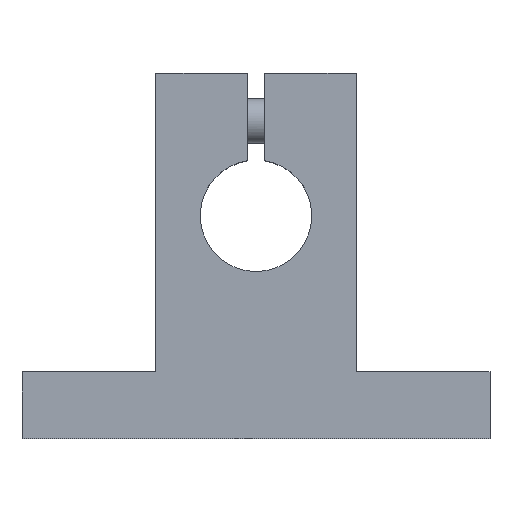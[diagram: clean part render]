
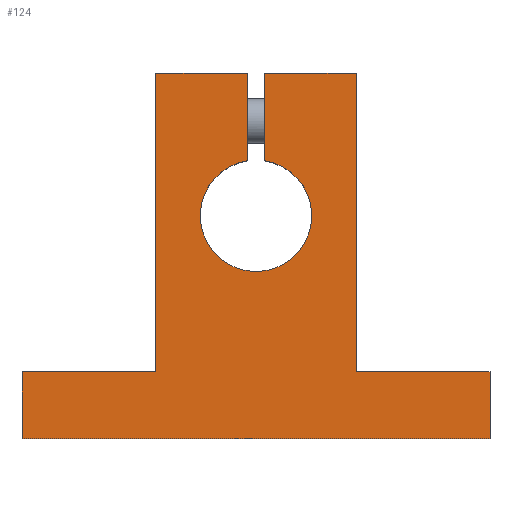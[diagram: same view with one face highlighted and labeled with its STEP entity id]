
A CAD part, top view. The second image highlights one B-rep face of the part: STEP entity #124.
In plain terms, the highlighted planar face has unit normal (0, 0, 1).
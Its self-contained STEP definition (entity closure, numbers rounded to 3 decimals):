
#124=ADVANCED_FACE('',(#161),#162,.F.);
#161=FACE_OUTER_BOUND('',#249,.T.);
#162=PLANE('',#250);
#249=EDGE_LOOP('',(#342,#343,#344,#345,#346,#347,#348,#349,#350,#351,#352,#353));
#250=AXIS2_PLACEMENT_3D('',#354,#355,#356);
#342=ORIENTED_EDGE('',*,*,#581,.T.);
#343=ORIENTED_EDGE('',*,*,#582,.T.);
#344=ORIENTED_EDGE('',*,*,#583,.T.);
#345=ORIENTED_EDGE('',*,*,#584,.T.);
#346=ORIENTED_EDGE('',*,*,#585,.T.);
#347=ORIENTED_EDGE('',*,*,#586,.T.);
#348=ORIENTED_EDGE('',*,*,#587,.T.);
#349=ORIENTED_EDGE('',*,*,#588,.T.);
#350=ORIENTED_EDGE('',*,*,#589,.T.);
#351=ORIENTED_EDGE('',*,*,#590,.T.);
#352=ORIENTED_EDGE('',*,*,#591,.T.);
#353=ORIENTED_EDGE('',*,*,#579,.T.);
#354=CARTESIAN_POINT('',(0.0,20.0,14.0));
#355=DIRECTION('',(0.0,0.0,-1.0));
#356=DIRECTION('',(1.0,0.,0.0));
#579=EDGE_CURVE('',#653,#651,#654,.T.);
#581=EDGE_CURVE('',#651,#656,#657,.T.);
#582=EDGE_CURVE('',#656,#658,#659,.T.);
#583=EDGE_CURVE('',#658,#660,#661,.T.);
#584=EDGE_CURVE('',#660,#662,#663,.T.);
#585=EDGE_CURVE('',#662,#664,#665,.T.);
#586=EDGE_CURVE('',#664,#666,#667,.T.);
#587=EDGE_CURVE('',#666,#668,#669,.T.);
#588=EDGE_CURVE('',#668,#670,#671,.T.);
#589=EDGE_CURVE('',#670,#672,#673,.T.);
#590=EDGE_CURVE('',#672,#674,#675,.T.);
#591=EDGE_CURVE('',#674,#653,#676,.T.);
#651=VERTEX_POINT('',#774);
#653=VERTEX_POINT('',#777);
#654=LINE('',#778,#779);
#656=VERTEX_POINT('',#782);
#657=LINE('',#783,#784);
#658=VERTEX_POINT('',#785);
#659=LINE('',#786,#787);
#660=VERTEX_POINT('',#788);
#661=LINE('',#789,#790);
#662=VERTEX_POINT('',#791);
#663=LINE('',#792,#793);
#664=VERTEX_POINT('',#794);
#665=LINE('',#795,#796);
#666=VERTEX_POINT('',#797);
#667=LINE('',#798,#799);
#668=VERTEX_POINT('',#800);
#669=LINE('',#801,#802);
#670=VERTEX_POINT('',#803);
#671=LINE('',#804,#805);
#672=VERTEX_POINT('',#806);
#673=LINE('',#807,#808);
#674=VERTEX_POINT('',#809);
#675=LINE('',#810,#811);
#676=CIRCLE('',#812,5.0);
#774=CARTESIAN_POINT('',(-0.75,32.8,14.0));
#777=CARTESIAN_POINT('',(-0.75,24.943,14.0));
#778=CARTESIAN_POINT('',(-0.75,24.943,14.0));
#779=VECTOR('',#980,1.0);
#782=CARTESIAN_POINT('',(-9.0,32.8,14.0));
#783=CARTESIAN_POINT('',(-0.75,32.8,14.0));
#784=VECTOR('',#982,1.0);
#785=CARTESIAN_POINT('',(-9.0,6.0,14.0));
#786=CARTESIAN_POINT('',(-9.0,32.8,14.0));
#787=VECTOR('',#983,1.0);
#788=CARTESIAN_POINT('',(-21.0,6.0,14.0));
#789=CARTESIAN_POINT('',(-9.0,6.0,14.0));
#790=VECTOR('',#984,1.0);
#791=CARTESIAN_POINT('',(-21.0,0.0,14.0));
#792=CARTESIAN_POINT('',(-21.0,6.0,14.0));
#793=VECTOR('',#985,1.0);
#794=CARTESIAN_POINT('',(21.0,0.0,14.0));
#795=CARTESIAN_POINT('',(-21.0,0.0,14.0));
#796=VECTOR('',#986,1.0);
#797=CARTESIAN_POINT('',(21.0,6.0,14.0));
#798=CARTESIAN_POINT('',(21.0,0.0,14.0));
#799=VECTOR('',#987,1.0);
#800=CARTESIAN_POINT('',(9.0,6.0,14.0));
#801=CARTESIAN_POINT('',(21.0,6.0,14.0));
#802=VECTOR('',#988,1.0);
#803=CARTESIAN_POINT('',(9.0,32.8,14.0));
#804=CARTESIAN_POINT('',(9.0,6.0,14.0));
#805=VECTOR('',#989,1.0);
#806=CARTESIAN_POINT('',(0.75,32.8,14.0));
#807=CARTESIAN_POINT('',(9.0,32.8,14.0));
#808=VECTOR('',#990,1.0);
#809=CARTESIAN_POINT('',(0.75,24.943,14.0));
#810=CARTESIAN_POINT('',(0.75,32.8,14.0));
#811=VECTOR('',#991,1.0);
#812=AXIS2_PLACEMENT_3D('',#992,#993,#994);
#980=DIRECTION('',(0.,1.0,0.0));
#982=DIRECTION('',(-1.0,0.0,0.0));
#983=DIRECTION('',(0.,-1.0,0.0));
#984=DIRECTION('',(-1.0,0.0,0.0));
#985=DIRECTION('',(0.,-1.0,0.0));
#986=DIRECTION('',(1.0,0.0,0.0));
#987=DIRECTION('',(0.,1.0,0.0));
#988=DIRECTION('',(-1.0,0.0,0.0));
#989=DIRECTION('',(0.,1.0,0.0));
#990=DIRECTION('',(-1.0,0.0,0.0));
#991=DIRECTION('',(0.,-1.0,0.0));
#992=CARTESIAN_POINT('',(0.0,20.0,14.0));
#993=DIRECTION('',(0.0,0.0,-1.0));
#994=DIRECTION('',(1.0,0.,0.0));
